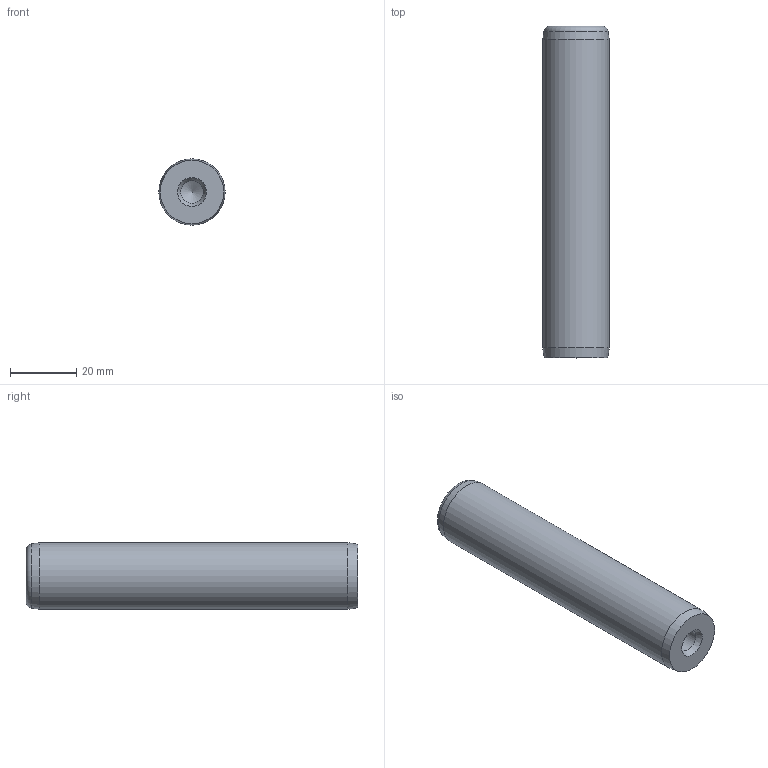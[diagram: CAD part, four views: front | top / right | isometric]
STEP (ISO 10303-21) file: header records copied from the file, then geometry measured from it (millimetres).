
FILE_DESCRIPTION( ( 'STEP AP203' ), '1' );
FILE_NAME( 'D:/Cuma/D14/D14_20100.step', '2003-01-18T23:35:52', ( ' ' ), ( ' ' ), 'XStep 1.0', ' ', ' ' );
FILE_SCHEMA( ( 'CONFIG_CONTROL_DESIGN' ) );
Length unit declared in the file: metre
Products named in the file (1): 1
Bounding box: 20 x 100 x 20 mm (x, y, z)
Volume: 29306.7 mm3; surface area: 7906.1 mm2
Topology: 1 solids, 1 shells, 14 faces, 29 edges, 17 vertices
Faces by surface type: cone 6, cylinder 5, plane 2, torus 1
Full cylindrical faces by diameter (mm): 6.75 x4, 20 x1
Entity records: 327 total; most frequent: DIRECTION 56, CARTESIAN_POINT 43, AXIS2_PLACEMENT_3D 28, EDGE_LOOP 26, ORIENTED_EDGE 26, FACE_OUTER_BOUND 20, VERTEX_POINT 15, ADVANCED_FACE 14
